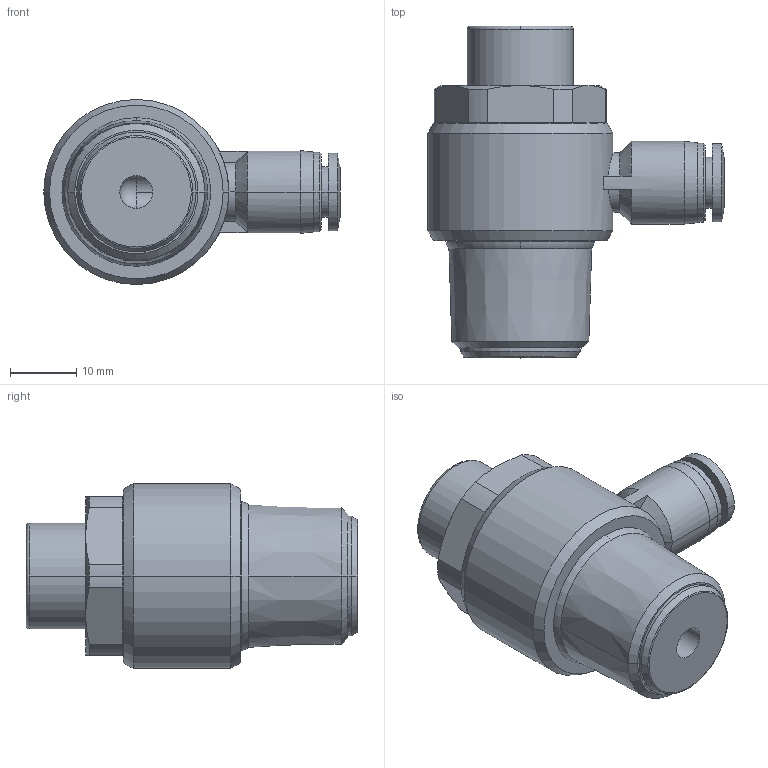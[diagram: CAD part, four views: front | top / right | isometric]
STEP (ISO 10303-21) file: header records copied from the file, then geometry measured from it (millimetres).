
FILE_DESCRIPTION (( 'STEP AP203' ), '1' );
FILE_NAME ('SCLF06-04.STEP', '2020-05-13T17:29:56', ( '' ), ( '' ), 'SwSTEP 2.0', 'SolidWorks 2019', '' );
FILE_SCHEMA (( 'CONFIG_CONTROL_DESIGN' ));
Length unit declared in the file: millimetre
Products named in the file (1): SCLF06-04
Bounding box: 44.85 x 50.2 x 28 mm (x, y, z)
Volume: 21521.9 mm3; surface area: 7145.9 mm2
Topology: 1 solids, 1 shells, 134 faces, 320 edges, 196 vertices
Faces by surface type: plane 49, cylinder 43, cone 33, torus 6, bspline 2, sphere 1
Entity records: 4088 total; most frequent: CARTESIAN_POINT 880, DIRECTION 707, ORIENTED_EDGE 634, EDGE_CURVE 317, AXIS2_PLACEMENT_3D 287, VERTEX_POINT 196, CIRCLE 154, EDGE_LOOP 147
